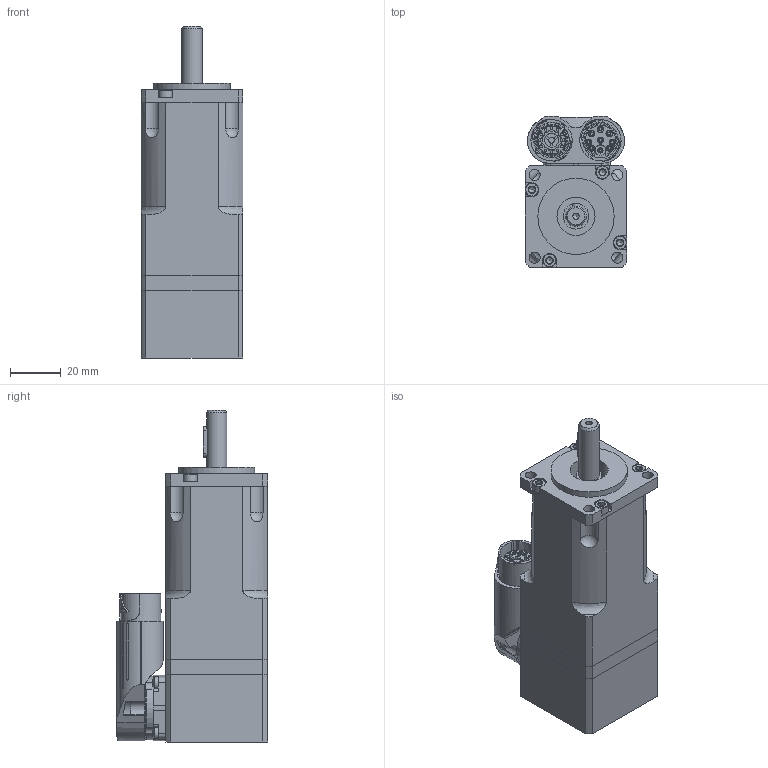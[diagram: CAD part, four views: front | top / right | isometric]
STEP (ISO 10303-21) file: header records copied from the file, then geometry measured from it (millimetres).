
FILE_DESCRIPTION(/* description */ (''),/* implementation_level */ '2;1');
FILE_NAME(/* name */ 'C:\Users\Public\Documents\Autodesk\Inventor LT 2014\Workspace\Motori Sito WEB\TG_0\STEP TG_0\DSM5_05_x09D.stp',/* time_stamp */ '2021-03-31T14:05:49+02:00',/* author */ ('marcor'),/* organization */ (''),/* preprocessor_version */ 'ST-DEVELOPER v15.2',/* originating_system */ 'Autodesk Inventor LT ',/* authorisation */ '');
FILE_SCHEMA (('AUTOMOTIVE_DESIGN { 1 0 10303 214 3 1 1 }'));
Length unit declared in the file: millimetre
Products named in the file (1): DSM5_05_x09D
Bounding box: 40 x 59.4 x 130.5 mm (x, y, z)
Volume: 120809.8 mm3; surface area: 40980.6 mm2
Topology: 15 solids, 16 shells, 880 faces, 2239 edges, 1468 vertices
Faces by surface type: plane 377, cylinder 321, cone 87, torus 74, sphere 21
Full cylindrical faces by diameter (mm): 1.075 x12, 1.15 x7, 1.7 x5, 2.05 x1, 2.224 x4, 2.3 x1, 2.45 x4, 2.459 x9, 2.5 x4, 2.55 x3, 2.7 x4, 2.88 x4, 3 x8, 3.2 x8, 4 x2, 4.3 x4, 5.3 x4, 5.45 x1, 5.5 x4, 6 x4, 7.5 x1, 8 x2, 10 x1, 11 x1, 11.75 x1, 11.8 x1, 12.25 x1, 12.75 x1, 13.92 x2, 15 x1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
Entity records: 27459 total; most frequent: CARTESIAN_POINT 6941, DIRECTION 4051, ORIENTED_EDGE 3870, EDGE_CURVE 1935, AXIS2_PLACEMENT_3D 1632, VERTEX_POINT 1381, EDGE_LOOP 1210, ADVANCED_FACE 879
